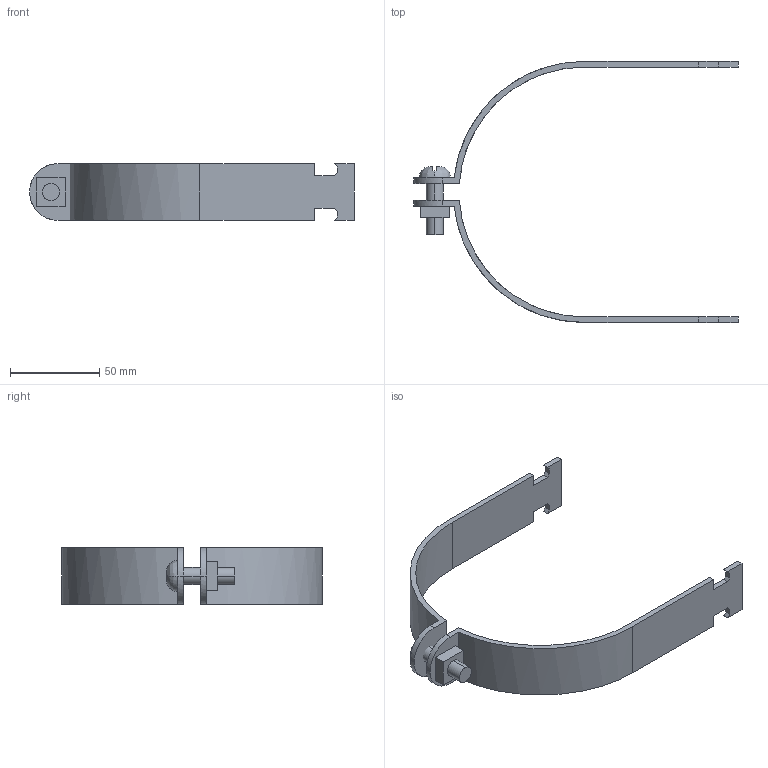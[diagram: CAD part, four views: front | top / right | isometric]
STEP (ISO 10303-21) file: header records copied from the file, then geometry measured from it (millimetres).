
FILE_DESCRIPTION(('TurboCAD Mac Pro'),'Build 980');
FILE_NAME('P2066.stp',' ',(''),(''),'ACIS Interop','IMSI','TurboCAD Mac Pro BY IMSI, INCORPORATED');
FILE_SCHEMA(('automotive_design'));
Length unit declared in the file: inch
Products named in the file (5): 1; 2; 3; 4; 5
Bounding box: 181.77 x 146.08 x 31.75 mm (x, y, z)
Volume: 46367.4 mm3; surface area: 32267.8 mm2
Topology: 4 solids, 4 shells, 71 faces, 186 edges, 124 vertices
Faces by surface type: plane 51, bspline 20
Entity records: 3487 total; most frequent: CARTESIAN_POINT 1050, ORIENTED_EDGE 372, DIRECTION 258, EDGE_CURVE 186, LINE 138, VECTOR 138, VERTEX_POINT 124, STYLED_ITEM 91
